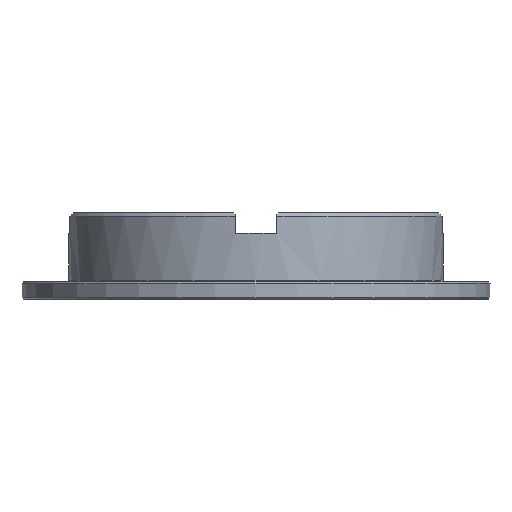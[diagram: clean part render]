
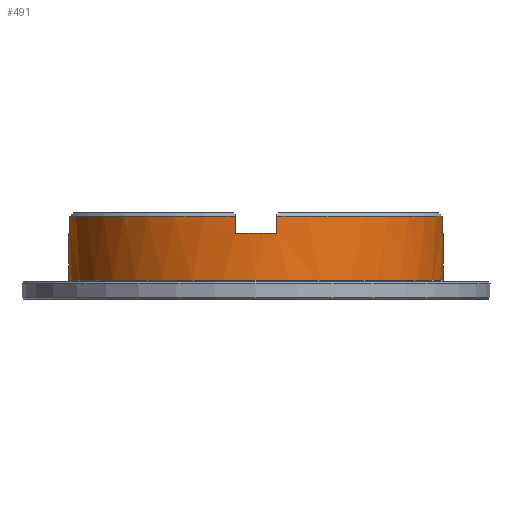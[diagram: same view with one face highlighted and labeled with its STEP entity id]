
A CAD part, front view. The second image highlights one B-rep face of the part: STEP entity #491.
In plain terms, the highlighted cylindrical face has radius 54 mm (diameter 108 mm), a partial arc.
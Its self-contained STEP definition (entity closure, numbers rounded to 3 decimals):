
#95 = EDGE_LOOP ( 'NONE', ( #2927, #4327, #1979, #5104, #5518, #3331, #1798, #5626, #478, #2529, #433, #522 ) ) ;
#117 = AXIS2_PLACEMENT_3D ( 'NONE', #3549, #882, #4011 ) ;
#272 = CARTESIAN_POINT ( 'NONE',  ( 53.666, -6., 24. ) ) ;
#362 = CARTESIAN_POINT ( 'NONE',  ( 54., 0., 0. ) ) ;
#409 = CIRCLE ( 'NONE', #1644, 54. ) ;
#428 = DIRECTION ( 'NONE',  ( 0., 0., -1. ) ) ;
#433 = ORIENTED_EDGE ( 'NONE', *, *, #533, .T. ) ;
#478 = ORIENTED_EDGE ( 'NONE', *, *, #3400, .T. ) ;
#491 = ADVANCED_FACE ( 'NONE', ( #1876 ), #4874, .T. ) ;
#522 = ORIENTED_EDGE ( 'NONE', *, *, #1933, .F. ) ;
#533 = EDGE_CURVE ( 'NONE', #2666, #2923, #1596, .T. ) ;
#552 = CARTESIAN_POINT ( 'NONE',  ( 6., -53.666, 19. ) ) ;
#674 = DIRECTION ( 'NONE',  ( -1., 0., 0. ) ) ;
#702 = CIRCLE ( 'NONE', #2740, 54. ) ;
#728 = CARTESIAN_POINT ( 'NONE',  ( -53.666, -6., 24. ) ) ;
#808 = CARTESIAN_POINT ( 'NONE',  ( -54., 0., 5.5 ) ) ;
#882 = DIRECTION ( 'NONE',  ( 0., 0., -1. ) ) ;
#997 = CARTESIAN_POINT ( 'NONE',  ( 0., 0., 19. ) ) ;
#1022 = EDGE_CURVE ( 'NONE', #1908, #4252, #702, .T. ) ;
#1088 = CARTESIAN_POINT ( 'NONE',  ( 53.666, -6., 19. ) ) ;
#1120 = VERTEX_POINT ( 'NONE', #4596 ) ;
#1166 = VECTOR ( 'NONE', #4667, 1000. ) ;
#1265 = VECTOR ( 'NONE', #3689, 1000. ) ;
#1324 = VECTOR ( 'NONE', #5679, 1000. ) ;
#1342 = EDGE_CURVE ( 'NONE', #2805, #5235, #1863, .T. ) ;
#1440 = DIRECTION ( 'NONE',  ( -1., 0., 0. ) ) ;
#1441 = DIRECTION ( 'NONE',  ( 0., 0., 1. ) ) ;
#1481 = CARTESIAN_POINT ( 'NONE',  ( -54., 0., 19. ) ) ;
#1596 = LINE ( 'NONE', #2594, #1324 ) ;
#1621 = DIRECTION ( 'NONE',  ( 0., 0., -1. ) ) ;
#1644 = AXIS2_PLACEMENT_3D ( 'NONE', #1937, #5060, #2391 ) ;
#1675 = CARTESIAN_POINT ( 'NONE',  ( 6., -53.666, 24. ) ) ;
#1798 = ORIENTED_EDGE ( 'NONE', *, *, #5720, .T. ) ;
#1863 = CIRCLE ( 'NONE', #117, 54. ) ;
#1876 = FACE_OUTER_BOUND ( 'NONE', #95, .T. ) ;
#1908 = VERTEX_POINT ( 'NONE', #4482 ) ;
#1913 = CARTESIAN_POINT ( 'NONE',  ( -53.666, -6., 19. ) ) ;
#1933 = EDGE_CURVE ( 'NONE', #4949, #2923, #3770, .T. ) ;
#1937 = CARTESIAN_POINT ( 'NONE',  ( 0., 0., 24. ) ) ;
#1979 = ORIENTED_EDGE ( 'NONE', *, *, #2712, .T. ) ;
#1997 = CARTESIAN_POINT ( 'NONE',  ( 0., 0., 5.5 ) ) ;
#2014 = CIRCLE ( 'NONE', #4494, 54. ) ;
#2137 = CARTESIAN_POINT ( 'NONE',  ( 54., 0., 5.5 ) ) ;
#2232 = DIRECTION ( 'NONE',  ( 0., 0., 1. ) ) ;
#2332 = CIRCLE ( 'NONE', #3994, 54. ) ;
#2350 = LINE ( 'NONE', #1088, #1166 ) ;
#2391 = DIRECTION ( 'NONE',  ( -1., 0., 0. ) ) ;
#2458 = DIRECTION ( 'NONE',  ( 0., -1., 0. ) ) ;
#2529 = ORIENTED_EDGE ( 'NONE', *, *, #5068, .F. ) ;
#2550 = VECTOR ( 'NONE', #3850, 1000. ) ;
#2594 = CARTESIAN_POINT ( 'NONE',  ( -54., 0., 0. ) ) ;
#2597 = AXIS2_PLACEMENT_3D ( 'NONE', #1997, #5113, #2458 ) ;
#2659 = EDGE_CURVE ( 'NONE', #4129, #4157, #409, .T. ) ;
#2666 = VERTEX_POINT ( 'NONE', #1481 ) ;
#2712 = EDGE_CURVE ( 'NONE', #1908, #2805, #2350, .T. ) ;
#2740 = AXIS2_PLACEMENT_3D ( 'NONE', #997, #4123, #1440 ) ;
#2805 = VERTEX_POINT ( 'NONE', #272 ) ;
#2923 = VERTEX_POINT ( 'NONE', #808 ) ;
#2927 = ORIENTED_EDGE ( 'NONE', *, *, #4931, .F. ) ;
#3036 = DIRECTION ( 'NONE',  ( 0., 0., -1. ) ) ;
#3062 = CARTESIAN_POINT ( 'NONE',  ( 54., 0., 19. ) ) ;
#3106 = CARTESIAN_POINT ( 'NONE',  ( -53.666, -6., 19. ) ) ;
#3166 = VECTOR ( 'NONE', #428, 1000. ) ;
#3331 = ORIENTED_EDGE ( 'NONE', *, *, #4643, .F. ) ;
#3357 = VERTEX_POINT ( 'NONE', #3962 ) ;
#3397 = CARTESIAN_POINT ( 'NONE',  ( -6., -53.666, 19. ) ) ;
#3400 = EDGE_CURVE ( 'NONE', #4157, #3623, #4754, .T. ) ;
#3549 = CARTESIAN_POINT ( 'NONE',  ( 0., 0., 24. ) ) ;
#3579 = EDGE_CURVE ( 'NONE', #5235, #3357, #4815, .T. ) ;
#3623 = VERTEX_POINT ( 'NONE', #1913 ) ;
#3689 = DIRECTION ( 'NONE',  ( 0., 0., -1. ) ) ;
#3740 = LINE ( 'NONE', #3397, #2550 ) ;
#3770 = CIRCLE ( 'NONE', #2597, 54. ) ;
#3811 = LINE ( 'NONE', #362, #4979 ) ;
#3850 = DIRECTION ( 'NONE',  ( 0., 0., 1. ) ) ;
#3865 = AXIS2_PLACEMENT_3D ( 'NONE', #5619, #1621, #674 ) ;
#3962 = CARTESIAN_POINT ( 'NONE',  ( 6., -53.666, 19. ) ) ;
#3994 = AXIS2_PLACEMENT_3D ( 'NONE', #4906, #2232, #5336 ) ;
#4011 = DIRECTION ( 'NONE',  ( -1., 0., 0. ) ) ;
#4123 = DIRECTION ( 'NONE',  ( 0., 0., 1. ) ) ;
#4127 = CARTESIAN_POINT ( 'NONE',  ( 0., 0., 19. ) ) ;
#4129 = VERTEX_POINT ( 'NONE', #4698 ) ;
#4157 = VERTEX_POINT ( 'NONE', #728 ) ;
#4252 = VERTEX_POINT ( 'NONE', #3062 ) ;
#4327 = ORIENTED_EDGE ( 'NONE', *, *, #1022, .F. ) ;
#4482 = CARTESIAN_POINT ( 'NONE',  ( 53.666, -6., 19. ) ) ;
#4494 = AXIS2_PLACEMENT_3D ( 'NONE', #4127, #1441, #4561 ) ;
#4561 = DIRECTION ( 'NONE',  ( -1., 0., 0. ) ) ;
#4596 = CARTESIAN_POINT ( 'NONE',  ( -6., -53.666, 19. ) ) ;
#4643 = EDGE_CURVE ( 'NONE', #1120, #3357, #2014, .T. ) ;
#4667 = DIRECTION ( 'NONE',  ( 0., 0., 1. ) ) ;
#4698 = CARTESIAN_POINT ( 'NONE',  ( -6., -53.666, 24. ) ) ;
#4754 = LINE ( 'NONE', #3106, #3166 ) ;
#4815 = LINE ( 'NONE', #552, #1265 ) ;
#4874 = CYLINDRICAL_SURFACE ( 'NONE', #3865, 54. ) ;
#4906 = CARTESIAN_POINT ( 'NONE',  ( 0., 0., 19. ) ) ;
#4931 = EDGE_CURVE ( 'NONE', #4252, #4949, #3811, .T. ) ;
#4949 = VERTEX_POINT ( 'NONE', #2137 ) ;
#4979 = VECTOR ( 'NONE', #3036, 1000. ) ;
#5060 = DIRECTION ( 'NONE',  ( 0., 0., -1. ) ) ;
#5068 = EDGE_CURVE ( 'NONE', #2666, #3623, #2332, .T. ) ;
#5104 = ORIENTED_EDGE ( 'NONE', *, *, #1342, .T. ) ;
#5113 = DIRECTION ( 'NONE',  ( 0., 0., -1. ) ) ;
#5235 = VERTEX_POINT ( 'NONE', #1675 ) ;
#5336 = DIRECTION ( 'NONE',  ( -1., 0., 0. ) ) ;
#5518 = ORIENTED_EDGE ( 'NONE', *, *, #3579, .T. ) ;
#5619 = CARTESIAN_POINT ( 'NONE',  ( 0., 0., 0. ) ) ;
#5626 = ORIENTED_EDGE ( 'NONE', *, *, #2659, .T. ) ;
#5679 = DIRECTION ( 'NONE',  ( 0., 0., -1. ) ) ;
#5720 = EDGE_CURVE ( 'NONE', #1120, #4129, #3740, .T. ) ;
